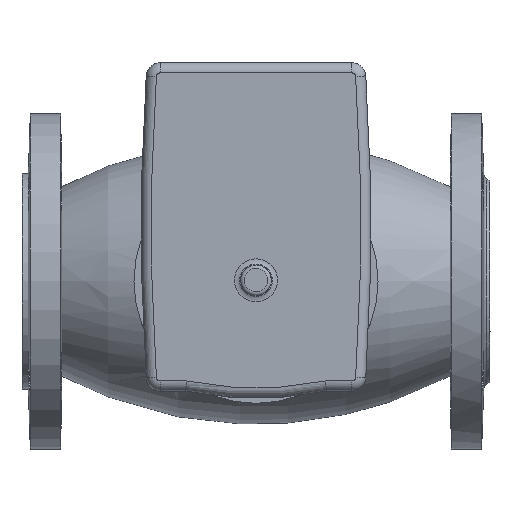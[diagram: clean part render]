
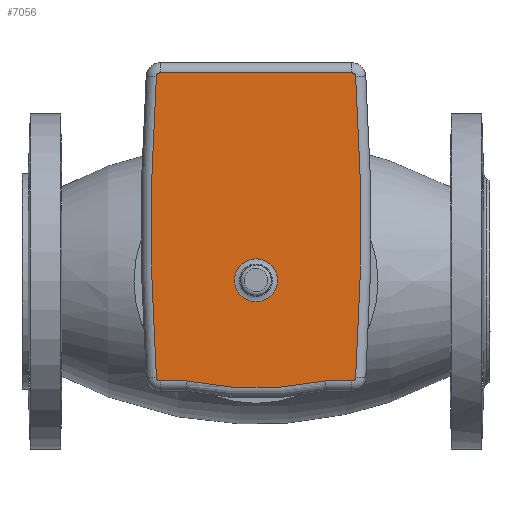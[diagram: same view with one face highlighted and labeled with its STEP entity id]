
A CAD part, top view. The second image highlights one B-rep face of the part: STEP entity #7056.
In plain terms, the highlighted planar face has unit normal (0, 0, 1).
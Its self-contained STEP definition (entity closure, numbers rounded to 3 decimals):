
#374=LINE('',#11182,#705);
#375=LINE('',#11200,#706);
#376=LINE('',#11218,#707);
#705=VECTOR('',#9023,1000.);
#706=VECTOR('',#9030,1000.);
#707=VECTOR('',#9055,1000.);
#888=PLANE('',#7624);
#1210=CIRCLE('',#7599,169.964);
#1213=CIRCLE('',#7604,1.964);
#1215=CIRCLE('',#7607,1096.964);
#1217=CIRCLE('',#7610,1.964);
#1219=CIRCLE('',#7614,1.964);
#1221=CIRCLE('',#7617,1096.964);
#1223=CIRCLE('',#7620,1.964);
#1225=CIRCLE('',#7625,10.521);
#2566=ORIENTED_EDGE('',*,*,#3279,.F.);
#2567=ORIENTED_EDGE('',*,*,#3276,.F.);
#2568=ORIENTED_EDGE('',*,*,#3274,.F.);
#2569=ORIENTED_EDGE('',*,*,#3272,.F.);
#2570=ORIENTED_EDGE('',*,*,#3290,.F.);
#2571=ORIENTED_EDGE('',*,*,#3288,.F.);
#2572=ORIENTED_EDGE('',*,*,#3286,.F.);
#2573=ORIENTED_EDGE('',*,*,#3285,.F.);
#2574=ORIENTED_EDGE('',*,*,#3283,.F.);
#2575=ORIENTED_EDGE('',*,*,#3281,.F.);
#2576=ORIENTED_EDGE('',*,*,#3292,.T.);
#3272=EDGE_CURVE('',#3745,#3746,#374,.T.);
#3274=EDGE_CURVE('',#3746,#3747,#1210,.T.);
#3276=EDGE_CURVE('',#3747,#3748,#375,.T.);
#3279=EDGE_CURVE('',#3748,#3749,#1213,.T.);
#3281=EDGE_CURVE('',#3749,#3750,#1215,.T.);
#3283=EDGE_CURVE('',#3750,#3751,#1217,.T.);
#3285=EDGE_CURVE('',#3751,#3752,#376,.T.);
#3286=EDGE_CURVE('',#3752,#3753,#1219,.T.);
#3288=EDGE_CURVE('',#3753,#3754,#1221,.T.);
#3290=EDGE_CURVE('',#3754,#3745,#1223,.T.);
#3292=EDGE_CURVE('',#3756,#3756,#1225,.T.);
#3745=VERTEX_POINT('',#11181);
#3746=VERTEX_POINT('',#11183);
#3747=VERTEX_POINT('',#11192);
#3748=VERTEX_POINT('',#11201);
#3749=VERTEX_POINT('',#11205);
#3750=VERTEX_POINT('',#11209);
#3751=VERTEX_POINT('',#11213);
#3752=VERTEX_POINT('',#11217);
#3753=VERTEX_POINT('',#11221);
#3754=VERTEX_POINT('',#11225);
#3756=VERTEX_POINT('',#11235);
#4221=EDGE_LOOP('',(#2566,#2567,#2568,#2569,#2570,#2571,#2572,#2573,#2574,
#2575));
#4222=EDGE_LOOP('',(#2576));
#4616=FACE_BOUND('',#4221,.T.);
#4617=FACE_BOUND('',#4222,.T.);
#7056=ADVANCED_FACE('',(#4616,#4617),#888,.F.);
#7599=AXIS2_PLACEMENT_3D('',#11191,#9026,#9027);
#7604=AXIS2_PLACEMENT_3D('',#11206,#9037,#9038);
#7607=AXIS2_PLACEMENT_3D('',#11210,#9043,#9044);
#7610=AXIS2_PLACEMENT_3D('',#11214,#9049,#9050);
#7614=AXIS2_PLACEMENT_3D('',#11220,#9058,#9059);
#7617=AXIS2_PLACEMENT_3D('',#11224,#9064,#9065);
#7620=AXIS2_PLACEMENT_3D('',#11228,#9070,#9071);
#7624=AXIS2_PLACEMENT_3D('',#11233,#9078,#9079);
#7625=AXIS2_PLACEMENT_3D('',#11234,#9080,#9081);
#9023=DIRECTION('',(-1.,0.,0.));
#9026=DIRECTION('',(0.,0.,-1.));
#9027=DIRECTION('',(0.,-1.,0.));
#9030=DIRECTION('',(-1.,0.,0.));
#9037=DIRECTION('',(0.,0.,-1.));
#9038=DIRECTION('',(0.,-1.,0.));
#9043=DIRECTION('',(0.,0.,-1.));
#9044=DIRECTION('',(0.,-1.,0.));
#9049=DIRECTION('',(0.,0.,-1.));
#9050=DIRECTION('',(0.,-1.,0.));
#9055=DIRECTION('',(1.,0.,0.));
#9058=DIRECTION('',(0.,0.,-1.));
#9059=DIRECTION('',(0.,-1.,0.));
#9064=DIRECTION('',(0.,0.,-1.));
#9065=DIRECTION('',(0.,-1.,0.));
#9070=DIRECTION('',(0.,0.,-1.));
#9071=DIRECTION('',(0.,-1.,0.));
#9078=DIRECTION('',(0.,0.,-1.));
#9079=DIRECTION('',(0.,-1.,0.));
#9080=DIRECTION('',(0.,0.,-1.));
#9081=DIRECTION('',(0.,-1.,0.));
#11181=CARTESIAN_POINT('',(57.479,-64.812,278.445));
#11182=CARTESIAN_POINT('',(57.479,-64.812,278.445));
#11183=CARTESIAN_POINT('',(44.575,-64.812,278.445));
#11191=CARTESIAN_POINT('',(10.479,101.698,278.445));
#11192=CARTESIAN_POINT('',(-23.617,-64.812,278.445));
#11200=CARTESIAN_POINT('',(-24.12,-64.812,278.445));
#11201=CARTESIAN_POINT('',(-36.521,-64.812,278.445));
#11205=CARTESIAN_POINT('',(-38.481,-62.979,278.445));
#11206=CARTESIAN_POINT('',(-36.521,-62.847,278.445));
#11209=CARTESIAN_POINT('',(-38.481,84.793,278.445));
#11210=CARTESIAN_POINT('',(1055.992,10.907,278.445));
#11213=CARTESIAN_POINT('',(-36.521,86.625,278.445));
#11214=CARTESIAN_POINT('',(-36.521,84.661,278.445));
#11217=CARTESIAN_POINT('',(57.479,86.625,278.445));
#11218=CARTESIAN_POINT('',(-36.521,86.625,278.445));
#11220=CARTESIAN_POINT('',(57.479,84.661,278.445));
#11221=CARTESIAN_POINT('',(59.439,84.793,278.445));
#11224=CARTESIAN_POINT('',(-1035.035,10.907,278.445));
#11225=CARTESIAN_POINT('',(59.439,-62.979,278.445));
#11228=CARTESIAN_POINT('',(57.479,-62.847,278.445));
#11233=CARTESIAN_POINT('',(10.479,-15.339,278.445));
#11234=CARTESIAN_POINT('',(10.479,-15.339,278.445));
#11235=CARTESIAN_POINT('',(10.479,-25.861,278.445));
